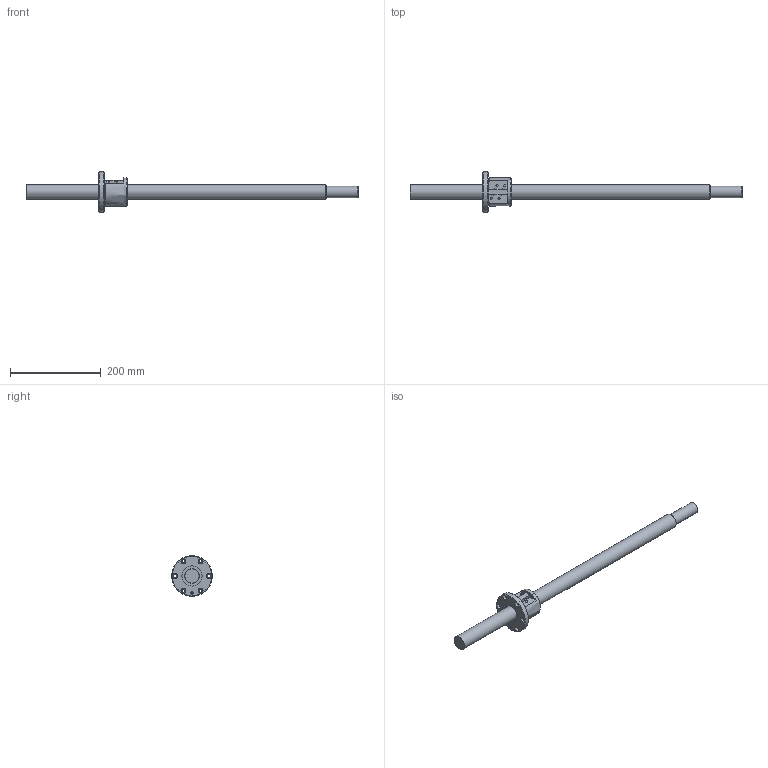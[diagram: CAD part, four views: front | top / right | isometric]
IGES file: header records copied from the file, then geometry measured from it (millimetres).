
Start section: Data from Parasolid IGES Translator 26.0.171, Copyright(c) 2006 Siemens PLM Software. All Rights Reserved.
Global section: file name: BNF3206-5RRG1+730LC5A(00).igs; native system: By Siemens PLM Incorporated; preprocessor: XPlus GENERIC/IGES 26.0.171; author: Noname; organization: Noname; date: 20240715.074856; units: millimetre
Bounding box: 730 x 89 x 89 mm (x, y, z)
Surface area: 107599.4 mm2 (no closed solid volume)
Topology: 0 solids, 0 shells, 71 faces, 364 edges, 327 vertices
Faces by surface type: revolution 47, extrusion 24
